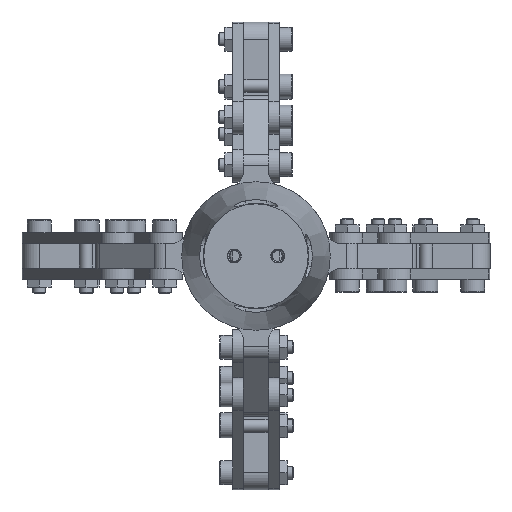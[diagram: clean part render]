
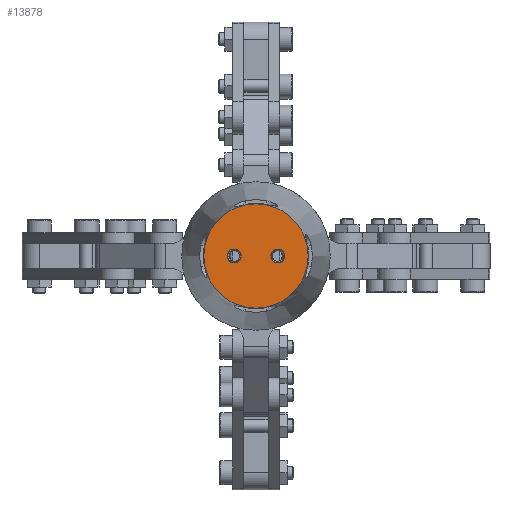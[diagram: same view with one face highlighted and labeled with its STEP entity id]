
A CAD part, front view. The second image highlights one B-rep face of the part: STEP entity #13878.
In plain terms, the highlighted planar face has unit normal (0, -1, 0) as drawn and (0, 0, 1) by its records, which use the part's own axes.
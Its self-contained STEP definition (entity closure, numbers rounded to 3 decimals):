
#1175=FACE_BOUND('',#2864,.T.);
#1176=FACE_BOUND('',#2865,.T.);
#1368=PLANE('',#15600);
#2045=FACE_OUTER_BOUND('',#2863,.T.);
#2863=EDGE_LOOP('',(#12165));
#2864=EDGE_LOOP('',(#12166));
#2865=EDGE_LOOP('',(#12167));
#5809=CIRCLE('',#15593,1.6);
#5810=CIRCLE('',#15595,1.6);
#5811=CIRCLE('',#15597,12.);
#6895=VERTEX_POINT('',#24454);
#6896=VERTEX_POINT('',#24458);
#6897=VERTEX_POINT('',#24462);
#8704=EDGE_CURVE('',#6895,#6895,#5809,.T.);
#8706=EDGE_CURVE('',#6896,#6896,#5810,.T.);
#8708=EDGE_CURVE('',#6897,#6897,#5811,.T.);
#12165=ORIENTED_EDGE('',*,*,#8708,.T.);
#12166=ORIENTED_EDGE('',*,*,#8704,.T.);
#12167=ORIENTED_EDGE('',*,*,#8706,.T.);
#13878=ADVANCED_FACE('',(#2045,#1175,#1176),#1368,.T.);
#15593=AXIS2_PLACEMENT_3D('',#24455,#19290,#19291);
#15595=AXIS2_PLACEMENT_3D('',#24459,#19295,#19296);
#15597=AXIS2_PLACEMENT_3D('',#24463,#19300,#19301);
#15600=AXIS2_PLACEMENT_3D('',#24469,#19307,#19308);
#19290=DIRECTION('center_axis',(0.,0.,-1.));
#19291=DIRECTION('ref_axis',(1.,0.,0.));
#19295=DIRECTION('center_axis',(0.,0.,-1.));
#19296=DIRECTION('ref_axis',(1.,0.,0.));
#19300=DIRECTION('center_axis',(0.,0.,1.));
#19301=DIRECTION('ref_axis',(1.,0.,0.));
#19307=DIRECTION('center_axis',(0.,0.,1.));
#19308=DIRECTION('ref_axis',(1.,0.,0.));
#24454=CARTESIAN_POINT('',(-6.6,0.,38.));
#24455=CARTESIAN_POINT('Origin',(-5.,0.,38.));
#24458=CARTESIAN_POINT('',(3.4,0.,38.));
#24459=CARTESIAN_POINT('Origin',(5.,0.,38.));
#24462=CARTESIAN_POINT('',(-12.,0.,38.));
#24463=CARTESIAN_POINT('Origin',(0.,0.,38.));
#24469=CARTESIAN_POINT('Origin',(0.,0.,38.));
